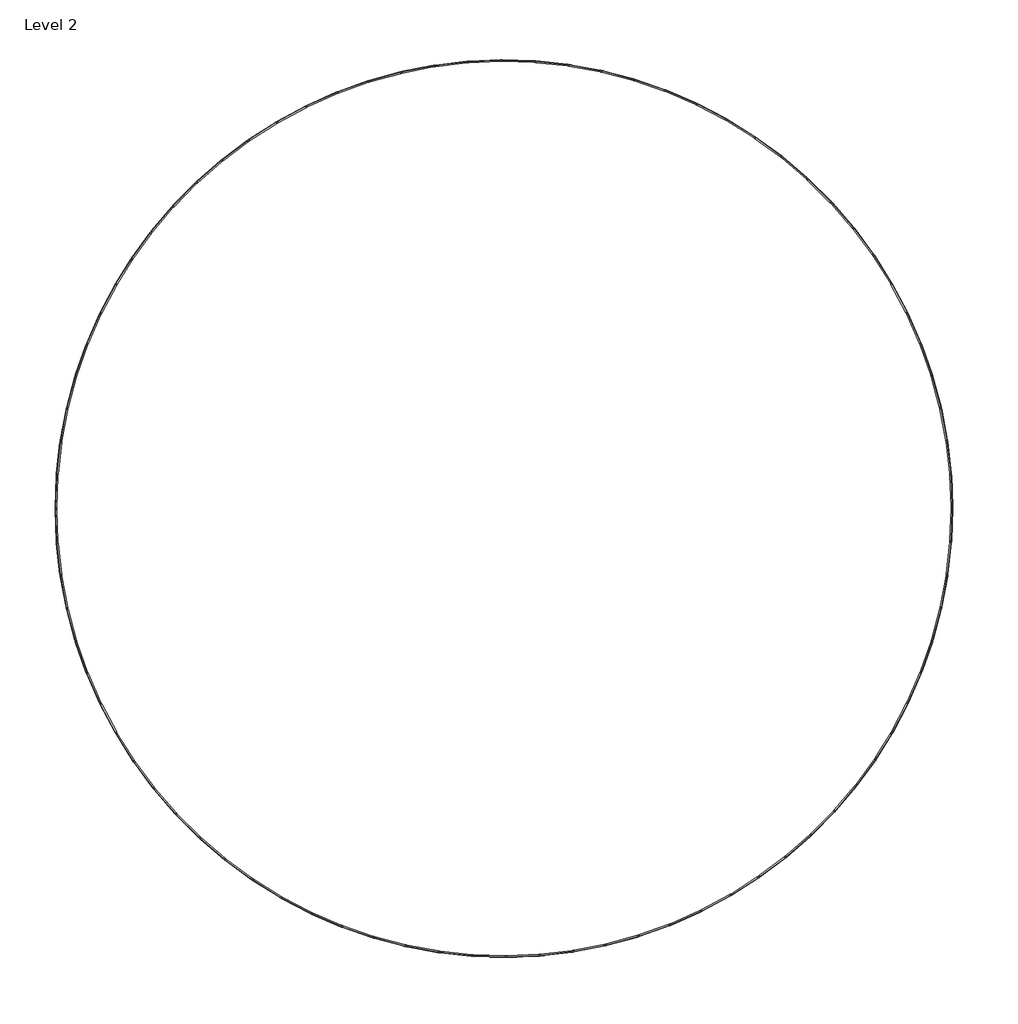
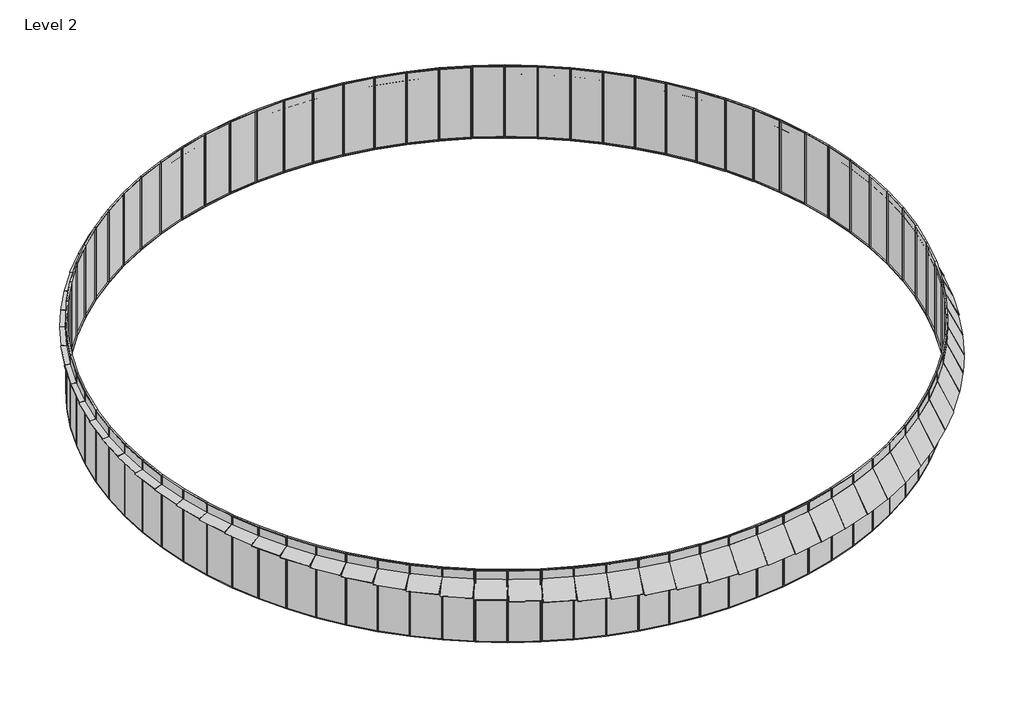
# One storey: 84 plates.
"""IFC4 building model written with IfcOpenShell, lengths in millimetres."""

from ifc_helpers import new_model, si_unit, origin, place, context, project, spatial, transform, mapped, element, save
from components import typical_panel_typical_panel_1dacabfa, typical_panel_typical_panel_de002282, typical_panel_typical_panel_c068772c, typical_panel_typical_panel_b4f8cd0d, typical_panel_typical_panel_24d31985, typical_panel_typical_panel_bf64ccab, typical_panel_typical_panel_7269d920, typical_panel_typical_panel_007911d2, typical_panel_typical_panel_ce44b4bb, typical_panel_typical_panel_4d8c99ed, typical_panel_typical_panel_a2fd8389, typical_panel_typical_panel_fa7228e3, typical_panel_typical_panel_21f6f527, typical_panel_typical_panel_994178b1, typical_panel_typical_panel_321f3c24, typical_panel_typical_panel_c4bb10ae, typical_panel_typical_panel_636d6651, typical_panel_typical_panel_3eeb6f99, typical_panel_typical_panel_555c9846, typical_panel_typical_panel_89c6637b, typical_panel_typical_panel_d72680d6, typical_panel_typical_panel_a65719b3, typical_panel_typical_panel_fb959741, typical_panel_typical_panel_bf9a72a6, typical_panel_typical_panel_530a7cf6, typical_panel_typical_panel_7dcf532a, typical_panel_typical_panel_64653f65, typical_panel_typical_panel_a58b40de, typical_panel_typical_panel_9cbe78d2, typical_panel_typical_panel_3d8b9d05, typical_panel_typical_panel_1fc3b25d, typical_panel_typical_panel_199775df, typical_panel_typical_panel_5af8f8b4, typical_panel_typical_panel_9333b02c, typical_panel_typical_panel_dc0afd6a, typical_panel_typical_panel_484bad6c, typical_panel_typical_panel_78da2cf4, typical_panel_typical_panel_ad1c7da8, typical_panel_typical_panel_823978b0, typical_panel_typical_panel_4a132dac, typical_panel_typical_panel_328596d2, typical_panel_typical_panel_e094c6e8, typical_panel_typical_panel_4f07c011, typical_panel_typical_panel_1149305a, typical_panel_typical_panel_529db082, typical_panel_typical_panel_4d45919f, typical_panel_typical_panel_7d76078b, typical_panel_typical_panel_77cb67d9, typical_panel_typical_panel_1d00d27b, typical_panel_typical_panel_c6367479, typical_panel_typical_panel_41a3be12, typical_panel_typical_panel_ce5b174f, typical_panel_typical_panel_92cceb4c, typical_panel_typical_panel_8b2101b3, typical_panel_typical_panel_25451a31, typical_panel_typical_panel_bbcebb09, typical_panel_typical_panel_16c89cbd, typical_panel_typical_panel_3222c149, typical_panel_typical_panel_e5a42394, typical_panel_typical_panel_2061968d, typical_panel_typical_panel_abac9c48, typical_panel_typical_panel_9d5c9c45, typical_panel_typical_panel_519964b2, typical_panel_typical_panel_5b56934d, typical_panel_typical_panel_f5345e9d, typical_panel_typical_panel_1ac13da4, typical_panel_typical_panel_46698638, typical_panel_typical_panel_2c4e3443, typical_panel_typical_panel_8a0cca83, typical_panel_typical_panel_8a6a9a35, typical_panel_typical_panel_1a510bae

model = new_model("IFC4")

# Units and contexts
model_context = context("Model", 3, world=origin())
ifc_project = project(units=[si_unit("LENGTHUNIT", "METRE", prefix="MILLI")], contexts=[model_context])

# Site, building, storey
site = spatial("IfcSite", under=ifc_project)
building = spatial("IfcBuilding", under=site)
storey = spatial("IfcBuildingStorey", under=building, Name="Level 2", Elevation=4000.0)

# Plates
placement = place(None, origin())
typical_panel_typical_panel_shape = typical_panel_typical_panel_1dacabfa(model_context)
element("IfcPlate", 1, ObjectType="Typical Panel : Typical Panel", at=placement, inside=storey, context=model_context, shape_type="MappedRepresentation", body=[
    mapped(typical_panel_typical_panel_shape, transform((19856.089182, 2274.471894, 4000.0), x_axis=(-0.11380364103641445, 0.9935032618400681, 0.0), y_axis=(-0.9935032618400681, -0.11380364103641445, 0.0), z_axis=(0.0, 0.0, 1.0))),
])
typical_panel_typical_panel_2_shape = typical_panel_typical_panel_de002282(model_context)
element("IfcPlate", 2, ObjectType="Typical Panel : Typical Panel", at=placement, inside=storey, context=model_context, shape_type="MappedRepresentation", body=[
    mapped(typical_panel_typical_panel_2_shape, transform((19629.7785242, 3756.2341636, 4000.0), x_axis=(-0.1879439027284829, 0.9821797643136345, 0.0), y_axis=(-0.9821797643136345, -0.1879439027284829, 0.0), z_axis=(0.0, 0.0, 1.0))),
])
element("IfcPlate", 3, ObjectType="Typical Panel : Typical Panel", at=placement, inside=storey, context=model_context, shape_type="MappedRepresentation", body=[
    mapped(typical_panel_typical_panel_2_shape, transform((5276.0381723, -19276.95311, 4000.0), x_axis=(0.9645260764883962, 0.26398759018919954, 0.0), y_axis=(-0.26398759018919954, 0.9645260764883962, 0.0), z_axis=(0.0, 0.0, 1.0))),
])
typical_panel_typical_panel_3_shape = typical_panel_typical_panel_c068772c(model_context)
element("IfcPlate", 4, ObjectType="Typical Panel : Typical Panel", at=placement, inside=storey, context=model_context, shape_type="MappedRepresentation", body=[
    mapped(typical_panel_typical_panel_3_shape, transform((19293.0503622, 5216.8676161, 4000.0), x_axis=(-0.2610269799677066, 0.9653315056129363, 0.0), y_axis=(-0.9653315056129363, -0.2610269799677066, 0.0), z_axis=(0.0, 0.0, 1.0))),
])
typical_panel_typical_panel_4_shape = typical_panel_typical_panel_b4f8cd0d(model_context)
element("IfcPlate", 5, ObjectType="Typical Panel : Typical Panel", at=placement, inside=storey, context=model_context, shape_type="MappedRepresentation", body=[
    mapped(typical_panel_typical_panel_4_shape, transform((18847.7987918, 6648.1561882, 4000.0), x_axis=(-0.3326417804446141, 0.9430532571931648, 0.0), y_axis=(-0.9430532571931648, -0.3326417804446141, 0.0), z_axis=(0.0, 0.0, 1.0))),
])
typical_panel_typical_panel_5_shape = typical_panel_typical_panel_24d31985(model_context)
element("IfcPlate", 6, ObjectType="Typical Panel : Typical Panel", at=placement, inside=storey, context=model_context, shape_type="MappedRepresentation", body=[
    mapped(typical_panel_typical_panel_5_shape, transform((18296.5283533, 8042.0488817, 4000.0), x_axis=(-0.40238547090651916, 0.9154703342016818, 0.0), y_axis=(-0.9154703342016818, -0.40238547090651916, 0.0), z_axis=(0.0, 0.0, 1.0))),
])
typical_panel_typical_panel_6_shape = typical_panel_typical_panel_bf64ccab(model_context)
element("IfcPlate", 7, ObjectType="Typical Panel : Typical Panel", at=placement, inside=storey, context=model_context, shape_type="MappedRepresentation", body=[
    mapped(typical_panel_typical_panel_6_shape, transform((17642.3399428, 9390.7050503, 4000.0), x_axis=(-0.46986574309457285, 0.8827378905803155, 0.0), y_axis=(-0.8827378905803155, -0.46986574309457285, 0.0), z_axis=(0.0, 0.0, 1.0))),
])
typical_panel_typical_panel_7_shape = typical_panel_typical_panel_7269d920(model_context)
element("IfcPlate", 8, ObjectType="Typical Panel : Typical Panel", at=placement, inside=storey, context=model_context, shape_type="MappedRepresentation", body=[
    mapped(typical_panel_typical_panel_7_shape, transform((16888.9133701, 10686.538503, 4000.0), x_axis=(-0.5347030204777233, 0.8450400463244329, 0.0), y_axis=(-0.8450400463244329, -0.5347030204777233, 0.0), z_axis=(0.0, 0.0, 1.0))),
])
typical_panel_typical_panel_8_shape = typical_panel_typical_panel_007911d2(model_context)
element("IfcPlate", 9, ObjectType="Typical Panel : Typical Panel", at=placement, inside=storey, context=model_context, shape_type="MappedRepresentation", body=[
    mapped(typical_panel_typical_panel_8_shape, transform((16040.4866598, 11922.2601766, 4000.0), x_axis=(-0.5965325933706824, 0.8025888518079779, 0.0), y_axis=(-0.8025888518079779, -0.5965325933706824, 0.0), z_axis=(0.0, 0.0, 1.0))),
])
typical_panel_typical_panel_9_shape = typical_panel_typical_panel_ce44b4bb(model_context)
element("IfcPlate", 10, ObjectType="Typical Panel : Typical Panel", at=placement, inside=storey, context=model_context, shape_type="MappedRepresentation", body=[
    mapped(typical_panel_typical_panel_9_shape, transform((15101.8322119, 13090.9191367, 4000.0), x_axis=(-0.6550066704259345, 0.7556230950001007, 0.0), y_axis=(-0.7556230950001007, -0.6550066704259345, 0.0), z_axis=(0.0, 0.0, 1.0))),
])
typical_panel_typical_panel_10_shape = typical_panel_typical_panel_4d8c99ed(model_context)
element("IfcPlate", 11, ObjectType="Typical Panel : Typical Panel", at=placement, inside=storey, context=model_context, shape_type="MappedRepresentation", body=[
    mapped(typical_panel_typical_panel_10_shape, transform((14078.2299579, 14185.9416766, 4000.0), x_axis=(-0.7097963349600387, 0.7044069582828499, 0.0), y_axis=(-0.7044069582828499, -0.7097963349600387, 0.0), z_axis=(0.0, 0.0, 1.0))),
])
typical_panel_typical_panel_11_shape = typical_panel_typical_panel_a2fd8389(model_context)
element("IfcPlate", 12, ObjectType="Typical Panel : Typical Panel", at=placement, inside=storey, context=model_context, shape_type="MappedRepresentation", body=[
    mapped(typical_panel_typical_panel_11_shape, transform((12975.4376603, 15201.1682947, 4000.0), x_axis=(-0.7605933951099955, 0.6492285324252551, 0.0), y_axis=(-0.6492285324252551, -0.7605933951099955, 0.0), z_axis=(0.0, 0.0, 1.0))),
])
typical_panel_typical_panel_12_shape = typical_panel_typical_panel_fa7228e3(model_context)
element("IfcPlate", 13, ObjectType="Typical Panel : Typical Panel", at=placement, inside=storey, context=model_context, shape_type="MappedRepresentation", body=[
    mapped(typical_panel_typical_panel_12_shape, transform((11799.6585259, 16130.8883411, 4000.0), x_axis=(-0.8071121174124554, 0.5903981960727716, 0.0), y_axis=(-0.5903981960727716, -0.8071121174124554, 0.0), z_axis=(0.0, 0.0, 1.0))),
])
typical_panel_typical_panel_13_shape = typical_panel_typical_panel_21f6f527(model_context)
element("IfcPlate", 14, ObjectType="Typical Panel : Typical Panel", at=placement, inside=storey, context=model_context, shape_type="MappedRepresentation", body=[
    mapped(typical_panel_typical_panel_13_shape, transform((10557.5063123, 16969.8721405, 4000.0), x_axis=(-0.8490908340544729, 0.5282468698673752, 0.0), y_axis=(-0.5282468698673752, -0.8490908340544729, 0.0), z_axis=(0.0, 0.0, 1.0))),
])
typical_panel_typical_panel_14_shape = typical_panel_typical_panel_994178b1(model_context)
element("IfcPlate", 15, ObjectType="Typical Panel : Typical Panel", at=placement, inside=storey, context=model_context, shape_type="MappedRepresentation", body=[
    mapped(typical_panel_typical_panel_14_shape, transform((7902.3651184, 18357.2908005, 4000.0), x_axis=(-0.9185105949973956, 0.3953963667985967, 0.0), y_axis=(-0.3953963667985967, -0.9185105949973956, 0.0), z_axis=(0.0, 0.0, 1.0))),
])
typical_panel_typical_panel_15_shape = typical_panel_typical_panel_321f3c24(model_context)
element("IfcPlate", 16, ObjectType="Typical Panel : Typical Panel", at=placement, inside=storey, context=model_context, shape_type="MappedRepresentation", body=[
    mapped(typical_panel_typical_panel_15_shape, transform((6504.3113073, 18897.9214311, 4000.0), x_axis=(-0.945561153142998, 0.3254444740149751, 0.0), y_axis=(-0.3254444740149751, -0.945561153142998, 0.0), z_axis=(0.0, 0.0, 1.0))),
])
typical_panel_typical_panel_16_shape = typical_panel_typical_panel_c4bb10ae(model_context)
element("IfcPlate", 17, ObjectType="Typical Panel : Typical Panel", at=placement, inside=storey, context=model_context, shape_type="MappedRepresentation", body=[
    mapped(typical_panel_typical_panel_16_shape, transform((5069.6707451, 19332.2512537, 4000.0), x_axis=(-0.9672929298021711, 0.25366195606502, 0.0), y_axis=(-0.25366195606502, -0.9672929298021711, 0.0), z_axis=(0.0, 0.0, 1.0))),
])
typical_panel_typical_panel_17_shape = typical_panel_typical_panel_636d6651(model_context)
element("IfcPlate", 18, ObjectType="Typical Panel : Typical Panel", at=placement, inside=storey, context=model_context, shape_type="MappedRepresentation", body=[
    mapped(typical_panel_typical_panel_17_shape, transform((3606.5132849, 19657.837163, 4000.0), x_axis=(-0.9835836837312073, 0.18045258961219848, 0.0), y_axis=(-0.18045258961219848, -0.9835836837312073, 0.0), z_axis=(0.0, 0.0, 1.0))),
])
typical_panel_typical_panel_18_shape = typical_panel_typical_panel_3eeb6f99(model_context)
element("IfcPlate", 19, ObjectType="Typical Panel : Typical Panel", at=placement, inside=storey, context=model_context, shape_type="MappedRepresentation", body=[
    mapped(typical_panel_typical_panel_18_shape, transform((2123.0691876, 19872.8477382, 4000.0), x_axis=(-0.9943417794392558, 0.10622817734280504, 0.0), y_axis=(-0.10622817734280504, -0.9943417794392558, 0.0), z_axis=(0.0, 0.0, 1.0))),
])
typical_panel_typical_panel_19_shape = typical_panel_typical_panel_555c9846(model_context)
element("IfcPlate", 20, ObjectType="Typical Panel : Typical Panel", at=placement, inside=storey, context=model_context, shape_type="MappedRepresentation", body=[
    mapped(typical_panel_typical_panel_19_shape, transform((627.682826, 19976.0735449, 4000.0), x_axis=(-0.9995067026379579, 0.03140623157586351, 0.0), y_axis=(-0.03140623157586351, -0.9995067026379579, 0.0), z_axis=(0.0, 0.0, 1.0))),
])
typical_panel_typical_panel_20_shape = typical_panel_typical_panel_89c6637b(model_context)
element("IfcPlate", 21, ObjectType="Typical Panel : Typical Panel", at=placement, inside=storey, context=model_context, shape_type="MappedRepresentation", body=[
    mapped(typical_panel_typical_panel_20_shape, transform((-871.2342514, 19966.9339379, 4000.0), x_axis=(-0.9990494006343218, -0.04359237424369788, 0.0), y_axis=(0.04359237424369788, -0.9990494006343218, 0.0), z_axis=(0.0, 0.0, 1.0))),
])
typical_panel_typical_panel_21_shape = typical_panel_typical_panel_d72680d6(model_context)
element("IfcPlate", 22, ObjectType="Typical Panel : Typical Panel", at=placement, inside=storey, context=model_context, shape_type="MappedRepresentation", body=[
    mapped(typical_panel_typical_panel_21_shape, transform((-2365.2506362, 19845.4803275, 4000.0), x_axis=(-0.9929724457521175, -0.11834577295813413, 0.0), y_axis=(0.11834577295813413, -0.9929724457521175, 0.0), z_axis=(0.0, 0.0, 1.0))),
])
typical_panel_typical_panel_22_shape = typical_panel_typical_panel_a65719b3(model_context)
element("IfcPlate", 23, ObjectType="Typical Panel : Typical Panel", at=placement, inside=storey, context=model_context, shape_type="MappedRepresentation", body=[
    mapped(typical_panel_typical_panel_22_shape, transform((-3845.9624862, 19612.3958902, 4000.0), x_axis=(-0.9813100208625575, -0.19243347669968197, 0.0), y_axis=(0.19243347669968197, -0.9813100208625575, 0.0), z_axis=(0.0, 0.0, 1.0))),
])
typical_panel_typical_panel_23_shape = typical_panel_typical_panel_fb959741(model_context)
element("IfcPlate", 24, ObjectType="Typical Panel : Typical Panel", at=placement, inside=storey, context=model_context, shape_type="MappedRepresentation", body=[
    mapped(typical_panel_typical_panel_23_shape, transform((-19635.4088039, -3726.6903684, 4000.0), x_axis=(0.18646567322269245, -0.9824614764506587, 0.0), y_axis=(0.9824614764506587, 0.18646567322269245, 0.0), z_axis=(0.0, 0.0, 1.0))),
])
typical_panel_typical_panel_24_shape = typical_panel_typical_panel_bf9a72a6(model_context)
element("IfcPlate", 25, ObjectType="Typical Panel : Typical Panel", at=placement, inside=storey, context=model_context, shape_type="MappedRepresentation", body=[
    mapped(typical_panel_typical_panel_24_shape, transform((-6734.2782537, 18817.1994835, 4000.0), x_axis=(-0.941522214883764, -0.33695091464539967, 0.0), y_axis=(0.33695091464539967, -0.941522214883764, 0.0), z_axis=(0.0, 0.0, 1.0))),
])
typical_panel_typical_panel_25_shape = typical_panel_typical_panel_530a7cf6(model_context)
element("IfcPlate", 26, ObjectType="Typical Panel : Typical Panel", at=placement, inside=storey, context=model_context, shape_type="MappedRepresentation", body=[
    mapped(typical_panel_typical_panel_25_shape, transform((-8125.635395, 18259.5604938, 4000.0), x_axis=(-0.9136206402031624, -0.40656773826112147, 0.0), y_axis=(0.40656773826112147, -0.9136206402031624, 0.0), z_axis=(0.0, 0.0, 1.0))),
])
element("IfcPlate", 27, ObjectType="Typical Panel : Typical Panel", at=placement, inside=storey, context=model_context, shape_type="MappedRepresentation", body=[
    mapped(typical_panel_typical_panel_25_shape, transform((-19971.8603692, -749.8622508, 4000.0), x_axis=(0.03751950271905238, -0.9992958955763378, 0.0), y_axis=(0.9992958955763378, 0.03751950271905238, 0.0), z_axis=(0.0, 0.0, 1.0))),
])
typical_panel_typical_panel_26_shape = typical_panel_typical_panel_7dcf532a(model_context)
element("IfcPlate", 28, ObjectType="Typical Panel : Typical Panel", at=placement, inside=storey, context=model_context, shape_type="MappedRepresentation", body=[
    mapped(typical_panel_typical_panel_26_shape, transform((-9471.2858372, 17599.2114764, 4000.0), x_axis=(-0.8805799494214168, -0.4738976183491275, 0.0), y_axis=(0.4738976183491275, -0.8805799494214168, 0.0), z_axis=(0.0, 0.0, 1.0))),
])
element("IfcPlate", 29, ObjectType="Typical Panel : Typical Panel", at=placement, inside=storey, context=model_context, shape_type="MappedRepresentation", body=[
    mapped(typical_panel_typical_panel_26_shape, transform((-19971.8896232, 749.0826904, 4000.0), x_axis=(-0.037480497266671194, -0.9992973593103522, 0.0), y_axis=(0.9992973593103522, -0.037480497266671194, 0.0), z_axis=(0.0, 0.0, 1.0))),
])
typical_panel_typical_panel_27_shape = typical_panel_typical_panel_64653f65(model_context)
element("IfcPlate", 30, ObjectType="Typical Panel : Typical Panel", at=placement, inside=storey, context=model_context, shape_type="MappedRepresentation", body=[
    mapped(typical_panel_typical_panel_27_shape, transform((-10763.6602966, 16839.8668944, 4000.0), x_axis=(-0.8425859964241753, -0.5385618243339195, 0.0), y_axis=(0.5385618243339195, -0.8425859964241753, 0.0), z_axis=(0.0, 0.0, 1.0))),
])
typical_panel_typical_panel_28_shape = typical_panel_typical_panel_a58b40de(model_context)
element("IfcPlate", 31, ObjectType="Typical Panel : Typical Panel", at=placement, inside=storey, context=model_context, shape_type="MappedRepresentation", body=[
    mapped(typical_panel_typical_panel_28_shape, transform((-11995.4891668, 15985.7980611, 4000.0), x_axis=(-0.7998524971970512, -0.6001966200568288, 0.0), y_axis=(0.6001966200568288, -0.7998524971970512, 0.0), z_axis=(0.0, 0.0, 1.0))),
])
element("IfcPlate", 32, ObjectType="Typical Panel : Typical Panel", at=placement, inside=storey, context=model_context, shape_type="MappedRepresentation", body=[
    mapped(typical_panel_typical_panel_28_shape, transform((-19635.5542525, 3725.9239385, 4000.0), x_axis=(-0.18642732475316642, -0.9824687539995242, 0.0), y_axis=(0.9824687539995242, -0.18642732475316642, 0.0), z_axis=(0.0, 0.0, 1.0))),
])
typical_panel_typical_panel_29_shape = typical_panel_typical_panel_9cbe78d2(model_context)
element("IfcPlate", 33, ObjectType="Typical Panel : Typical Panel", at=placement, inside=storey, context=model_context, shape_type="MappedRepresentation", body=[
    mapped(typical_panel_typical_panel_29_shape, transform((-13159.8434105, 15041.8091137, 4000.0), x_axis=(-0.752619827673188, -0.6584553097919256, 0.0), y_axis=(0.6584553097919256, -0.752619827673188, 0.0), z_axis=(0.0, 0.0, 1.0))),
])
element("IfcPlate", 34, ObjectType="Typical Panel : Typical Panel", at=placement, inside=storey, context=model_context, shape_type="MappedRepresentation", body=[
    mapped(typical_panel_typical_panel_29_shape, transform((-19301.0815142, 5187.0755134, 4000.0), x_axis=(-0.2595363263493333, -0.9657333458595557, 0.0), y_axis=(0.9657333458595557, -0.2595363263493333, 0.0), z_axis=(0.0, 0.0, 1.0))),
])
typical_panel_typical_panel_30_shape = typical_panel_typical_panel_3d8b9d05(model_context)
element("IfcPlate", 35, ObjectType="Typical Panel : Typical Panel", at=placement, inside=storey, context=model_context, shape_type="MappedRepresentation", body=[
    mapped(typical_panel_typical_panel_30_shape, transform((-14250.1735349, 14013.20999, 4000.0), x_axis=(-0.7011536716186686, -0.7130101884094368, 0.0), y_axis=(0.7130101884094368, -0.7011536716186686, 0.0), z_axis=(0.0, 0.0, 1.0))),
])
element("IfcPlate", 36, ObjectType="Typical Panel : Typical Panel", at=placement, inside=storey, context=model_context, shape_type="MappedRepresentation", body=[
    mapped(typical_panel_typical_panel_30_shape, transform((-18858.0401924, 6619.0497885, 4000.0), x_axis=(-0.3311854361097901, -0.9435656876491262, 0.0), y_axis=(0.9435656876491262, -0.3311854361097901, 0.0), z_axis=(0.0, 0.0, 1.0))),
])
typical_panel_typical_panel_31_shape = typical_panel_typical_panel_1fc3b25d(model_context)
element("IfcPlate", 37, ObjectType="Typical Panel : Typical Panel", at=placement, inside=storey, context=model_context, shape_type="MappedRepresentation", body=[
    mapped(typical_panel_typical_panel_31_shape, transform((-15260.3464333, 12905.7865602, 4000.0), x_axis=(-0.6457435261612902, -0.7635543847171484, 0.0), y_axis=(0.7635543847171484, -0.6457435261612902, 0.0), z_axis=(0.0, 0.0, 1.0))),
])
element("IfcPlate", 38, ObjectType="Typical Panel : Typical Panel", at=placement, inside=storey, context=model_context, shape_type="MappedRepresentation", body=[
    mapped(typical_panel_typical_panel_31_shape, transform((-18308.9223944, 8013.7919086, 4000.0), x_axis=(-0.4009716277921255, -0.9160904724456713, 0.0), y_axis=(0.9160904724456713, -0.4009716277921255, 0.0), z_axis=(0.0, 0.0, 1.0))),
])
typical_panel_typical_panel_32_shape = typical_panel_typical_panel_199775df(model_context)
element("IfcPlate", 39, ObjectType="Typical Panel : Typical Panel", at=placement, inside=storey, context=model_context, shape_type="MappedRepresentation", body=[
    mapped(typical_panel_typical_panel_32_shape, transform((-16184.6798829, 11725.7680809, 4000.0), x_axis=(-0.5867010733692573, -0.809803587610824, 0.0), y_axis=(0.809803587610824, -0.5867010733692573, 0.0), z_axis=(0.0, 0.0, 1.0))),
])
typical_panel_typical_panel_33_shape = typical_panel_typical_panel_5af8f8b4(model_context)
element("IfcPlate", 40, ObjectType="Typical Panel : Typical Panel", at=placement, inside=storey, context=model_context, shape_type="MappedRepresentation", body=[
    mapped(typical_panel_typical_panel_33_shape, transform((-19859.5769982, 2243.8140414, 4000.0), x_axis=(-0.11226966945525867, -0.993677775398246, 0.0), y_axis=(0.993677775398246, -0.11226966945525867, 0.0), z_axis=(0.0, 0.0, 1.0))),
])
typical_panel_typical_panel_34_shape = typical_panel_typical_panel_9333b02c(model_context)
element("IfcPlate", 41, ObjectType="Typical Panel : Typical Panel", at=placement, inside=storey, context=model_context, shape_type="MappedRepresentation", body=[
    mapped(typical_panel_typical_panel_34_shape, transform((-19859.4894005, -2244.5892168, 4000.0), x_axis=(0.11230845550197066, -0.9936733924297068, 0.0), y_axis=(0.9936733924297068, 0.11230845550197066, 0.0), z_axis=(0.0, 0.0, 1.0))),
])
typical_panel_typical_panel_35_shape = typical_panel_typical_panel_dc0afd6a(model_context)
element("IfcPlate", 42, ObjectType="Typical Panel : Typical Panel", at=placement, inside=storey, context=model_context, shape_type="MappedRepresentation", body=[
    mapped(typical_panel_typical_panel_35_shape, transform((-19300.8790329, -5187.8288868, 4000.0), x_axis=(0.25957402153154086, -0.9657232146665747, 0.0), y_axis=(0.9657232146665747, 0.25957402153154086, 0.0), z_axis=(0.0, 0.0, 1.0))),
])
typical_panel_typical_panel_36_shape = typical_panel_typical_panel_484bad6c(model_context)
element("IfcPlate", 43, ObjectType="Typical Panel : Typical Panel", at=placement, inside=storey, context=model_context, shape_type="MappedRepresentation", body=[
    mapped(typical_panel_typical_panel_36_shape, transform((-18857.7818173, -6619.7858676, 4000.0), x_axis=(0.331222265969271, -0.9435527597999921, 0.0), y_axis=(0.9435527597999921, 0.331222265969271, 0.0), z_axis=(0.0, 0.0, 1.0))),
])
typical_panel_typical_panel_37_shape = typical_panel_typical_panel_78da2cf4(model_context)
element("IfcPlate", 44, ObjectType="Typical Panel : Typical Panel", at=placement, inside=storey, context=model_context, shape_type="MappedRepresentation", body=[
    mapped(typical_panel_typical_panel_37_shape, transform((-18308.6095789, -8014.506553, 4000.0), x_axis=(0.40100738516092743, -0.916074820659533, 0.0), y_axis=(0.916074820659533, 0.40100738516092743, 0.0), z_axis=(0.0, 0.0, 1.0))),
])
typical_panel_typical_panel_38_shape = typical_panel_typical_panel_ad1c7da8(model_context)
element("IfcPlate", 45, ObjectType="Typical Panel : Typical Panel", at=placement, inside=storey, context=model_context, shape_type="MappedRepresentation", body=[
    mapped(typical_panel_typical_panel_38_shape, transform((-17656.4514117, -9364.1456389, 4000.0), x_axis=(0.4685368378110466, -0.8834439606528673, 0.0), y_axis=(0.8834439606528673, 0.4685368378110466, 0.0), z_axis=(0.0, 0.0, 1.0))),
])
typical_panel_typical_panel_39_shape = typical_panel_typical_panel_823978b0(model_context)
element("IfcPlate", 46, ObjectType="Typical Panel : Typical Panel", at=placement, inside=storey, context=model_context, shape_type="MappedRepresentation", body=[
    mapped(typical_panel_typical_panel_39_shape, transform((-16904.9757053, -10661.1114057, 4000.0), x_axis=(0.5334307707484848, -0.8458437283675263, 0.0), y_axis=(0.8458437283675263, 0.5334307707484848, 0.0), z_axis=(0.0, 0.0, 1.0))),
])
typical_panel_typical_panel_40_shape = typical_panel_typical_panel_4a132dac(model_context)
element("IfcPlate", 47, ObjectType="Typical Panel : Typical Panel", at=placement, inside=storey, context=model_context, shape_type="MappedRepresentation", body=[
    mapped(typical_panel_typical_panel_40_shape, transform((-16058.4095105, -11898.1084208, 4000.0), x_axis=(0.5953241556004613, -0.8034856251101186, 0.0), y_axis=(0.8034856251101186, 0.5953241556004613, 0.0), z_axis=(0.0, 0.0, 1.0))),
])
typical_panel_typical_panel_41_shape = typical_panel_typical_panel_328596d2(model_context)
element("IfcPlate", 48, ObjectType="Typical Panel : Typical Panel", at=placement, inside=storey, context=model_context, shape_type="MappedRepresentation", body=[
    mapped(typical_panel_typical_panel_41_shape, transform((-15121.5147622, -13068.178576, 4000.0), x_axis=(0.6538688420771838, -0.7566079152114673, 0.0), y_axis=(0.7566079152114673, 0.6538688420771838, 0.0), z_axis=(0.0, 0.0, 1.0))),
])
typical_panel_typical_panel_42_shape = typical_panel_typical_panel_e094c6e8(model_context)
element("IfcPlate", 49, ObjectType="Typical Panel : Typical Panel", at=placement, inside=storey, context=model_context, shape_type="MappedRepresentation", body=[
    mapped(typical_panel_typical_panel_42_shape, transform((-14099.5614934, -14164.7402268, 4000.0), x_axis=(0.7087355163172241, -0.7054742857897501, 0.0), y_axis=(0.7054742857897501, 0.7087355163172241, 0.0), z_axis=(0.0, 0.0, 1.0))),
])
typical_panel_typical_panel_43_shape = typical_panel_typical_panel_4f07c011(model_context)
element("IfcPlate", 50, ObjectType="Typical Panel : Typical Panel", at=placement, inside=storey, context=model_context, shape_type="MappedRepresentation", body=[
    mapped(typical_panel_typical_panel_43_shape, transform((-12998.2981912, -15181.6252138, 4000.0), x_axis=(0.7596155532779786, -0.6503723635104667, 0.0), y_axis=(0.6503723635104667, 0.7596155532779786, 0.0), z_axis=(0.0, 0.0, 1.0))),
])
typical_panel_typical_panel_44_shape = typical_panel_typical_panel_1149305a(model_context)
element("IfcPlate", 51, ObjectType="Typical Panel : Typical Panel", at=placement, inside=storey, context=model_context, shape_type="MappedRepresentation", body=[
    mapped(typical_panel_typical_panel_44_shape, transform((-11823.9194617, -16113.1135589, 4000.0), x_axis=(0.8062227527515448, -0.5916120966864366, 0.0), y_axis=(0.5916120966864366, 0.8062227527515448, 0.0), z_axis=(0.0, 0.0, 1.0))),
])
typical_panel_typical_panel_45_shape = typical_panel_typical_panel_529db082(model_context)
element("IfcPlate", 52, ObjectType="Typical Panel : Typical Panel", at=placement, inside=storey, context=model_context, shape_type="MappedRepresentation", body=[
    mapped(typical_panel_typical_panel_45_shape, transform((-10583.0311852, -16953.9656403, 4000.0), x_axis=(0.8482949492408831, -0.529524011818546, 0.0), y_axis=(0.529524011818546, 0.8482949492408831, 0.0), z_axis=(0.0, 0.0, 1.0))),
])
typical_panel_typical_panel_46_shape = typical_panel_typical_panel_4d45919f(model_context)
element("IfcPlate", 53, ObjectType="Typical Panel : Typical Panel", at=placement, inside=storey, context=model_context, shape_type="MappedRepresentation", body=[
    mapped(typical_panel_typical_panel_46_shape, transform((-9282.6133583, -17699.451665, 4000.0), x_axis=(0.8855954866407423, -0.4644573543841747, 0.0), y_axis=(0.4644573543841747, 0.8855954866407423, 0.0), z_axis=(0.0, 0.0, 1.0))),
])
typical_panel_typical_panel_47_shape = typical_panel_typical_panel_7d76078b(model_context)
element("IfcPlate", 54, ObjectType="Typical Panel : Typical Panel", at=placement, inside=storey, context=model_context, shape_type="MappedRepresentation", body=[
    mapped(typical_panel_typical_panel_47_shape, transform((-7929.9808313, -18345.378274, 4000.0), x_axis=(0.9179145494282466, -0.39677812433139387, 0.0), y_axis=(0.39677812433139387, 0.9179145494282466, 0.0), z_axis=(0.0, 0.0, 1.0))),
])
typical_panel_typical_panel_48_shape = typical_panel_typical_panel_77cb67d9(model_context)
element("IfcPlate", 55, ObjectType="Typical Panel : Typical Panel", at=placement, inside=storey, context=model_context, shape_type="MappedRepresentation", body=[
    mapped(typical_panel_typical_panel_48_shape, transform((-6532.742162, -18888.1121302, 4000.0), x_axis=(0.9450703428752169, -0.3268670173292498, 0.0), y_axis=(0.3268670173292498, 0.9450703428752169, 0.0), z_axis=(0.0, 0.0, 1.0))),
])
typical_panel_typical_panel_49_shape = typical_panel_typical_panel_1d00d27b(model_context)
element("IfcPlate", 56, ObjectType="Typical Panel : Typical Panel", at=placement, inside=storey, context=model_context, shape_type="MappedRepresentation", body=[
    mapped(typical_panel_typical_panel_49_shape, transform((-5098.7568181, -19324.6003557, 4000.0), x_axis=(0.9669101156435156, -0.25511728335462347, 0.0), y_axis=(0.25511728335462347, 0.9669101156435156, 0.0), z_axis=(0.0, 0.0, 1.0))),
])
typical_panel_typical_panel_50_shape = typical_panel_typical_panel_c6367479(model_context)
element("IfcPlate", 57, ObjectType="Typical Panel : Typical Panel", at=placement, inside=storey, context=model_context, shape_type="MappedRepresentation", body=[
    mapped(typical_panel_typical_panel_50_shape, transform((-3636.0909672, -19652.3877043, 4000.0), x_axis=(0.983311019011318, -0.18193251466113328, 0.0), y_axis=(0.18193251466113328, 0.983311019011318, 0.0), z_axis=(0.0, 0.0, 1.0))),
])
typical_panel_typical_panel_51_shape = typical_panel_typical_panel_41a3be12(model_context)
element("IfcPlate", 58, ObjectType="Typical Panel : Typical Panel", at=placement, inside=storey, context=model_context, shape_type="MappedRepresentation", body=[
    mapped(typical_panel_typical_panel_51_shape, transform((-2152.9721045, -19869.6303719, 4000.0), x_axis=(0.9941807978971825, -0.10772437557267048, 0.0), y_axis=(0.10772437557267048, 0.9941807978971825, 0.0), z_axis=(0.0, 0.0, 1.0))),
])
typical_panel_typical_panel_52_shape = typical_panel_typical_panel_ce5b174f(model_context)
element("IfcPlate", 59, ObjectType="Typical Panel : Typical Panel", at=placement, inside=storey, context=model_context, shape_type="MappedRepresentation", body=[
    mapped(typical_panel_typical_panel_52_shape, transform((-657.7427737, -19975.1063688, 4000.0), x_axis=(0.9994583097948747, -0.032910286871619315, 0.0), y_axis=(0.032910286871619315, 0.9994583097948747, 0.0), z_axis=(0.0, 0.0, 1.0))),
])
typical_panel_typical_panel_53_shape = typical_panel_typical_panel_92cceb4c(model_context)
element("IfcPlate", 60, ObjectType="Typical Panel : Typical Panel", at=placement, inside=storey, context=model_context, shape_type="MappedRepresentation", body=[
    mapped(typical_panel_typical_panel_53_shape, transform((841.1863602, -19968.2223923, 4000.0), x_axis=(0.9991138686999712, 0.042088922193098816, 0.0), y_axis=(-0.042088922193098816, 0.9991138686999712, 0.0), z_axis=(0.0, 0.0, 1.0))),
])
typical_panel_typical_panel_54_shape = typical_panel_typical_panel_8b2101b3(model_context)
element("IfcPlate", 61, ObjectType="Typical Panel : Typical Panel", at=placement, inside=storey, context=model_context, shape_type="MappedRepresentation", body=[
    mapped(typical_panel_typical_panel_54_shape, transform((2335.3838208, -19849.0171648, 4000.0), x_axis=(0.9931494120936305, 0.11685138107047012, 0.0), y_axis=(-0.11685138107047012, 0.9931494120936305, 0.0), z_axis=(0.0, 0.0, 1.0))),
])
typical_panel_typical_panel_55_shape = typical_panel_typical_panel_25451a31(model_context)
element("IfcPlate", 62, ObjectType="Typical Panel : Typical Panel", at=placement, inside=storey, context=model_context, shape_type="MappedRepresentation", body=[
    mapped(typical_panel_typical_panel_55_shape, transform((3816.4447474, -19618.1612158, 4000.0), x_axis=(0.9815984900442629, 0.19095655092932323, 0.0), y_axis=(-0.19095655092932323, 0.9815984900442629, 0.0), z_axis=(0.0, 0.0, 1.0))),
])
typical_panel_typical_panel_56_shape = typical_panel_typical_panel_bbcebb09(model_context)
element("IfcPlate", 63, ObjectType="Typical Panel : Typical Panel", at=placement, inside=storey, context=model_context, shape_type="MappedRepresentation", body=[
    mapped(typical_panel_typical_panel_56_shape, transform((6705.9538824, -18827.3121429, 4000.0), x_axis=(0.9420282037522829, 0.3355336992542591, 0.0), y_axis=(-0.3355336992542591, 0.9420282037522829, 0.0), z_axis=(0.0, 0.0, 1.0))),
])
typical_panel_typical_panel_57_shape = typical_panel_typical_panel_16c89cbd(model_context)
element("IfcPlate", 64, ObjectType="Typical Panel : Typical Panel", at=placement, inside=storey, context=model_context, shape_type="MappedRepresentation", body=[
    mapped(typical_panel_typical_panel_57_shape, transform((19970.7093382, 779.91572, 4000.0), x_axis=(-0.03902323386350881, 0.9992383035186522, 0.0), y_axis=(-0.9992383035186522, -0.03902323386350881, 0.0), z_axis=(0.0, 0.0, 1.0))),
])
element("IfcPlate", 65, ObjectType="Typical Panel : Typical Panel", at=placement, inside=storey, context=model_context, shape_type="MappedRepresentation", body=[
    mapped(typical_panel_typical_panel_57_shape, transform((8098.148602, -18271.767545, 4000.0), x_axis=(0.9142314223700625, 0.4051924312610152, 0.0), y_axis=(-0.4051924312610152, 0.9142314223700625, 0.0), z_axis=(0.0, 0.0, 1.0))),
])
typical_panel_typical_panel_58_shape = typical_panel_typical_panel_3222c149(model_context)
element("IfcPlate", 66, ObjectType="Typical Panel : Typical Panel", at=placement, inside=storey, context=model_context, shape_type="MappedRepresentation", body=[
    mapped(typical_panel_typical_panel_58_shape, transform((19972.9942543, -719.02748, 4000.0), x_axis=(0.03597667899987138, 0.9993526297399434, 0.0), y_axis=(-0.9993526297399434, 0.03597667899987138, 0.0), z_axis=(0.0, 0.0, 1.0))),
])
element("IfcPlate", 67, ObjectType="Typical Panel : Typical Panel", at=placement, inside=storey, context=model_context, shape_type="MappedRepresentation", body=[
    mapped(typical_panel_typical_panel_58_shape, transform((9444.7912357, -17613.4442547, 4000.0), x_axis=(0.8812920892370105, 0.47257195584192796, 0.0), y_axis=(-0.47257195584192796, 0.8812920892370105, 0.0), z_axis=(0.0, 0.0, 1.0))),
])
typical_panel_typical_panel_59_shape = typical_panel_typical_panel_e5a42394(model_context)
element("IfcPlate", 68, ObjectType="Typical Panel : Typical Panel", at=placement, inside=storey, context=model_context, shape_type="MappedRepresentation", body=[
    mapped(typical_panel_typical_panel_59_shape, transform((10738.3069187, -16856.0453404, 4000.0), x_axis=(0.8433954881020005, 0.5372932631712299, 0.0), y_axis=(-0.5372932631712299, 0.8433954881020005, 0.0), z_axis=(0.0, 0.0, 1.0))),
])
typical_panel_typical_panel_60_shape = typical_panel_typical_panel_2061968d(model_context)
element("IfcPlate", 69, ObjectType="Typical Panel : Typical Panel", at=placement, inside=storey, context=model_context, shape_type="MappedRepresentation", body=[
    mapped(typical_panel_typical_panel_60_shape, transform((19641.1389139, -3696.3714861, 4000.0), x_axis=(0.18494866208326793, 0.9827481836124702, 0.0), y_axis=(-0.9827481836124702, 0.18494866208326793, 0.0), z_axis=(0.0, 0.0, 1.0))),
])
element("IfcPlate", 70, ObjectType="Typical Panel : Typical Panel", at=placement, inside=storey, context=model_context, shape_type="MappedRepresentation", body=[
    mapped(typical_panel_typical_panel_60_shape, transform((11971.4196253, -16003.8311711, 4000.0), x_axis=(0.8007547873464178, 0.5989922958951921, 0.0), y_axis=(-0.5989922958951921, 0.8007547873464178, 0.0), z_axis=(0.0, 0.0, 1.0))),
])
typical_panel_typical_panel_61_shape = typical_panel_typical_panel_abac9c48(model_context)
element("IfcPlate", 71, ObjectType="Typical Panel : Typical Panel", at=placement, inside=storey, context=model_context, shape_type="MappedRepresentation", body=[
    mapped(typical_panel_typical_panel_61_shape, transform((19308.8653437, -5158.0247323, 4000.0), x_axis=(0.25808276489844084, 0.9661228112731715, 0.0), y_axis=(-0.9661228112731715, 0.25808276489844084, 0.0), z_axis=(0.0, 0.0, 1.0))),
])
element("IfcPlate", 72, ObjectType="Typical Panel : Typical Panel", at=placement, inside=storey, context=model_context, shape_type="MappedRepresentation", body=[
    mapped(typical_panel_typical_panel_61_shape, transform((13137.1930965, -15061.5954515, 4000.0), x_axis=(0.7536098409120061, 0.6573219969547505, 0.0), y_axis=(-0.6573219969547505, 0.7536098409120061, 0.0), z_axis=(0.0, 0.0, 1.0))),
])
typical_panel_typical_panel_62_shape = typical_panel_typical_panel_9d5c9c45(model_context)
element("IfcPlate", 73, ObjectType="Typical Panel : Typical Panel", at=placement, inside=storey, context=model_context, shape_type="MappedRepresentation", body=[
    mapped(typical_panel_typical_panel_62_shape, transform((18867.9794059, -6590.6640893, 4000.0), x_axis=(0.32976515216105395, 0.9440629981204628, 0.0), y_axis=(-0.9440629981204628, 0.32976515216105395, 0.0), z_axis=(0.0, 0.0, 1.0))),
])
element("IfcPlate", 74, ObjectType="Typical Panel : Typical Panel", at=placement, inside=storey, context=model_context, shape_type="MappedRepresentation", body=[
    mapped(typical_panel_typical_panel_62_shape, transform((14229.0698566, -14034.6382574, 4000.0), x_axis=(0.7022258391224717, 0.7119542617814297, 0.0), y_axis=(-0.7119542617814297, 0.7022258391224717, 0.0), z_axis=(0.0, 0.0, 1.0))),
])
typical_panel_typical_panel_63_shape = typical_panel_typical_panel_519964b2(model_context)
element("IfcPlate", 75, ObjectType="Typical Panel : Typical Panel", at=placement, inside=storey, context=model_context, shape_type="MappedRepresentation", body=[
    mapped(typical_panel_typical_panel_63_shape, transform((18320.961084, -7986.2309609, 4000.0), x_axis=(0.3995926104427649, 0.9166928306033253, 0.0), y_axis=(-0.9166928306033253, 0.3995926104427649, 0.0), z_axis=(0.0, 0.0, 1.0))),
])
element("IfcPlate", 76, ObjectType="Typical Panel : Typical Panel", at=placement, inside=storey, context=model_context, shape_type="MappedRepresentation", body=[
    mapped(typical_panel_typical_panel_63_shape, transform((15240.9080986, -12928.7362232, 4000.0), x_axis=(0.6468918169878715, 0.7625817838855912, 0.0), y_axis=(-0.7625817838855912, 0.6468918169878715, 0.0), z_axis=(0.0, 0.0, 1.0))),
])
typical_panel_typical_panel_64_shape = typical_panel_typical_panel_5b56934d(model_context)
element("IfcPlate", 77, ObjectType="Typical Panel : Typical Panel", at=placement, inside=storey, context=model_context, shape_type="MappedRepresentation", body=[
    mapped(typical_panel_typical_panel_64_shape, transform((16167.0162327, -11750.1100477, 4000.0), x_axis=(0.5879190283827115, 0.8089197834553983, 0.0), y_axis=(-0.8089197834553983, 0.5879190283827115, 0.0), z_axis=(0.0, 0.0, 1.0))),
])
typical_panel_typical_panel_65_shape = typical_panel_typical_panel_f5345e9d(model_context)
element("IfcPlate", 78, ObjectType="Typical Panel : Typical Panel", at=placement, inside=storey, context=model_context, shape_type="MappedRepresentation", body=[
    mapped(typical_panel_typical_panel_65_shape, transform((19862.9310778, -2213.9261503, 4000.0), x_axis=(0.11077422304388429, 0.9938455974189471, 0.0), y_axis=(-0.9938455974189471, 0.11077422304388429, 0.0), z_axis=(0.0, 0.0, 1.0))),
])
typical_panel_typical_panel_66_shape = typical_panel_typical_panel_1ac13da4(model_context)
element("IfcPlate", 79, ObjectType="Typical Panel : Typical Panel", at=placement, inside=storey, context=model_context, shape_type="MappedRepresentation", body=[
    mapped(typical_panel_typical_panel_66_shape, transform((17670.8873509, -9336.8752919, 4000.0), x_axis=(0.4671723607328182, 0.8841662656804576, 0.0), y_axis=(-0.8841662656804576, 0.4671723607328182, 0.0), z_axis=(0.0, 0.0, 1.0))),
])
typical_panel_typical_panel_67_shape = typical_panel_typical_panel_46698638(model_context)
element("IfcPlate", 80, ObjectType="Typical Panel : Typical Panel", at=placement, inside=storey, context=model_context, shape_type="MappedRepresentation", body=[
    mapped(typical_panel_typical_panel_67_shape, transform((-17656.816903, 9363.4564578, 4000.0), x_axis=(-0.468502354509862, -0.8834622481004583, 0.0), y_axis=(0.8834622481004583, -0.468502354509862, 0.0), z_axis=(0.0, 0.0, 1.0))),
])
typical_panel_typical_panel_68_shape = typical_panel_typical_panel_2c4e3443(model_context)
element("IfcPlate", 81, ObjectType="Typical Panel : Typical Panel", at=placement, inside=storey, context=model_context, shape_type="MappedRepresentation", body=[
    mapped(typical_panel_typical_panel_68_shape, transform((9255.9681257, 17713.4004092, 4000.0), x_axis=(-0.8862934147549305, 0.4631241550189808, 0.0), y_axis=(-0.4631241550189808, -0.8862934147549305, 0.0), z_axis=(0.0, 0.0, 1.0))),
])
typical_panel_typical_panel_69_shape = typical_panel_typical_panel_8a0cca83(model_context)
element("IfcPlate", 82, ObjectType="Typical Panel : Typical Panel", at=placement, inside=storey, context=model_context, shape_type="MappedRepresentation", body=[
    mapped(typical_panel_typical_panel_69_shape, transform((-5305.0407972, 19268.9917261, 4000.0), x_axis=(-0.9641277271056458, -0.2654387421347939, 0.0), y_axis=(0.2654387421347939, -0.9641277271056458, 0.0), z_axis=(0.0, 0.0, 1.0))),
])
typical_panel_typical_panel_70_shape = typical_panel_typical_panel_8a6a9a35(model_context)
element("IfcPlate", 83, ObjectType="Typical Panel : Typical Panel", at=placement, inside=storey, context=model_context, shape_type="MappedRepresentation", body=[
    mapped(typical_panel_typical_panel_70_shape, transform((-16972.6068818, 10559.2076951, 4000.0), x_axis=(-0.5282468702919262, -0.849090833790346, 0.0), y_axis=(0.849090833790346, -0.5282468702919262, 0.0), z_axis=(0.0, 0.0, 1.0))),
])
typical_panel_typical_panel_71_shape = typical_panel_typical_panel_1a510bae(model_context)
element("IfcPlate", 84, ObjectType="Typical Panel : Typical Panel", at=placement, inside=storey, context=model_context, shape_type="MappedRepresentation", body=[
    mapped(typical_panel_typical_panel_71_shape, transform((16956.6978182, -10584.7366814, 4000.0), x_axis=(0.5295240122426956, 0.8482949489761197, 0.0), y_axis=(-0.8482949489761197, 0.5295240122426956, 0.0), z_axis=(0.0, 0.0, 1.0))),
])

save(model, "model.ifc")
